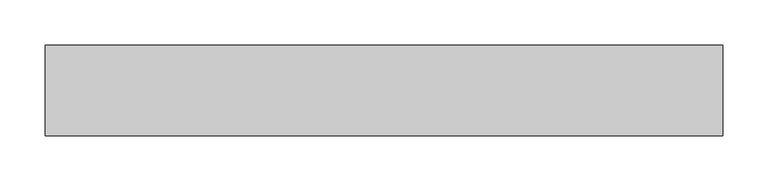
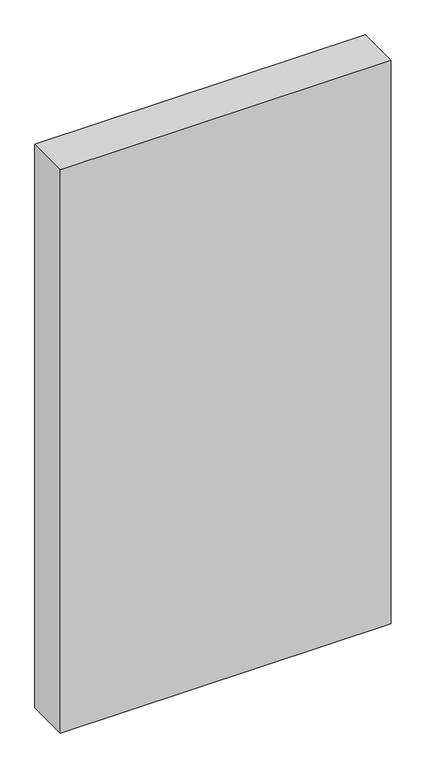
"""IFC4 building model written with IfcOpenShell, lengths in millimetres: proxy geometry, 600x 1200mm Manway Cover."""

from ifc_helpers import new_model, si_unit, frame, origin, place, context, project, spatial, polyline, outline, extrude, source, transform, mapped, element, save


def generic_models_37cd0800(model_context):
    return source(origin(), model_context, "Body", "SweptSolid", [
        extrude(outline(polyline([(-375.0, 0.0), (-375.0, 100.0), (375.0, 100.0), (375.0, 0.0), (-375.0, 0.0)])), frame((0.0, 0.0, -675.0), z_axis=(0.0, 0.0, 1.0), x_axis=(1.0, 0.0, 0.0)), (0.0, 0.0, 1.0), 1350.0),
    ])


if __name__ == "__main__":
    model = new_model("IFC4")
    model_context = context("Model", 3, world=origin())
    ifc_project = project(units=[si_unit("LENGTHUNIT", "METRE", prefix="MILLI")], contexts=[model_context])
    site = spatial("IfcSite", under=ifc_project)
    building = spatial("IfcBuilding", under=site)
    placement = place(None, origin())
    generic_models_shape = generic_models_37cd0800(model_context)
    element("IfcBuildingElementProxy", 1, Name="600x 1200mm Manway Cover", ObjectType="600x 1200mm Manway Cover", at=placement, inside=building, context=model_context, shape_type="MappedRepresentation", body=[
        mapped(generic_models_shape, transform((0.0, 0.0, 0.0), x_axis=(1.0, 0.0, 0.0), y_axis=(0.0, 1.0, 0.0), z_axis=(0.0, 0.0, 1.0))),
    ])
    save(model, "model.ifc")
